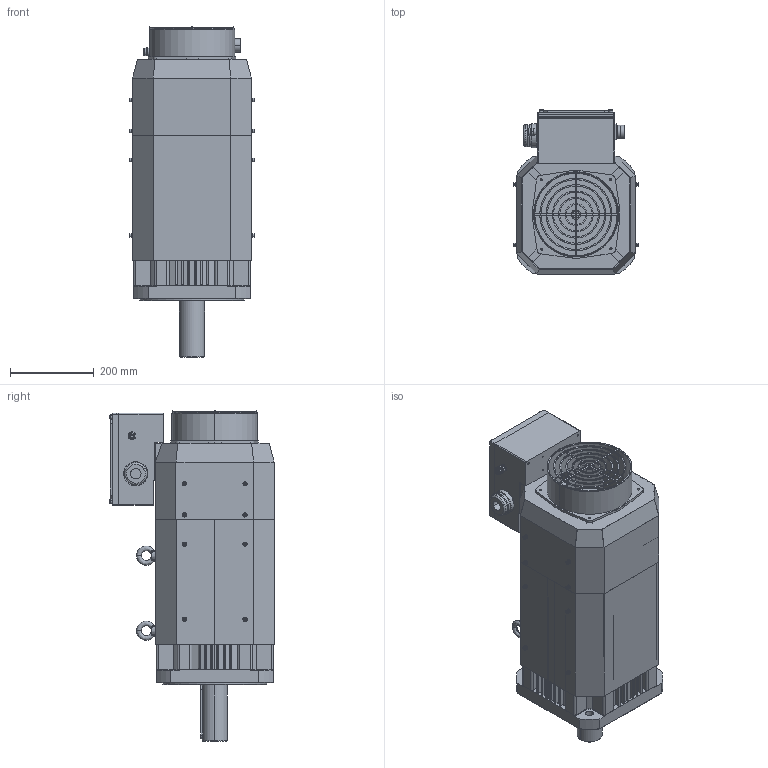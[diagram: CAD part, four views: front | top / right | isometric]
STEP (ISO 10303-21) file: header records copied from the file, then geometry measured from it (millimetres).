
FILE_DESCRIPTION (( 'STEP AP203' ), '1' );
FILE_NAME ('EMB-2BD(湍惕掅).STEP', '2020-04-17T09:01:00', ( '' ), ( '' ), 'SwSTEP 2.0', 'SolidWorks 2018', '' );
FILE_SCHEMA (( 'CONFIG_CONTROL_DESIGN' ));
Products named in the file (1): EMB-2BD(湍惕掅)
Bounding box: 298.6 x 393 x 791.5 mm (x, y, z)
Volume: 35520336.8 mm3; surface area: 2879397.5 mm2
Topology: 91 solids, 92 shells, 2399 faces, 5700 edges, 3541 vertices
Faces by surface type: plane 1126, cylinder 879, cone 248, torus 74, bspline 72
Entity records: 75244 total; most frequent: CARTESIAN_POINT 18903, DIRECTION 12379, ORIENTED_EDGE 11112, EDGE_CURVE 5556, AXIS2_PLACEMENT_3D 4719, VERTEX_POINT 3541, VECTOR 2941, LINE 2941
